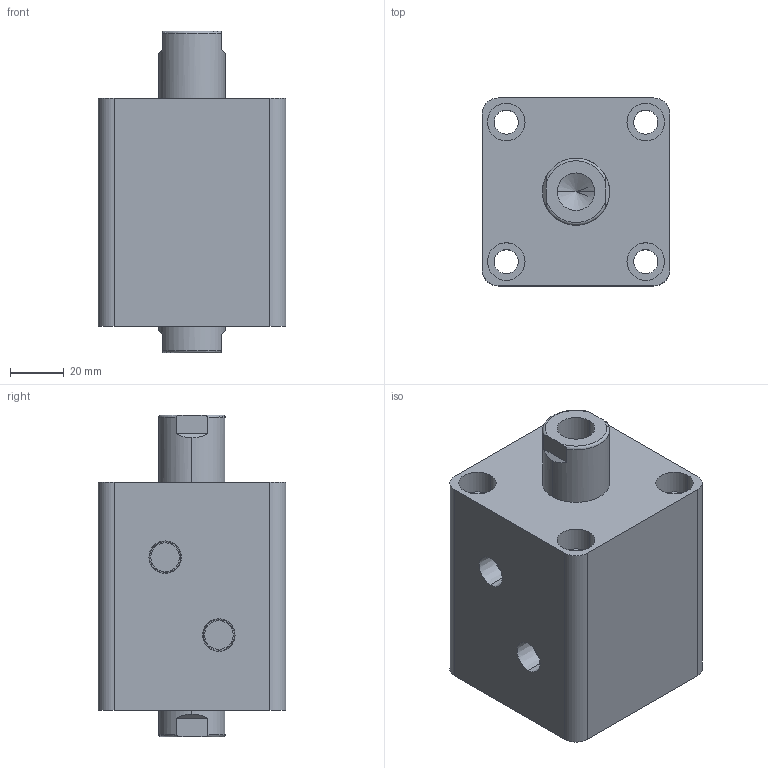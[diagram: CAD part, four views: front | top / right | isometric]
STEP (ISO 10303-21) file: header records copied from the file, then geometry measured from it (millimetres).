
FILE_DESCRIPTION (( 'STEP AP203' ), '1' );
FILE_NAME ('HTB-SW40-15N.STEP', '2019-10-07T09:05:27', ( '微软用户' ), ( '微软中国' ), 'SwSTEP 2.0', 'SolidWorks 2012', '' );
FILE_SCHEMA (( 'CONFIG_CONTROL_DESIGN' ));
Length unit declared in the file: millimetre
Products named in the file (3): HTB-SW40-15N; HTB-SW40-15N活塞杆; HTB-SW40-15掛极
Assembly tree (2 placements, depth 2):
  HTB-SW40-15N
    HTB-SW40-15掛极
    HTB-SW40-15N活塞杆
Bounding box: 70 x 70 x 120 mm (x, y, z)
Volume: 383050.2 mm3; surface area: 66473.3 mm2
Topology: 2 solids, 2 shells, 100 faces, 228 edges, 146 vertices
Faces by surface type: cylinder 48, plane 32, torus 12, cone 8
Entity records: 3237 total; most frequent: CARTESIAN_POINT 595, DIRECTION 542, ORIENTED_EDGE 448, AXIS2_PLACEMENT_3D 229, EDGE_CURVE 224, VERTEX_POINT 146, EDGE_LOOP 128, CIRCLE 124
